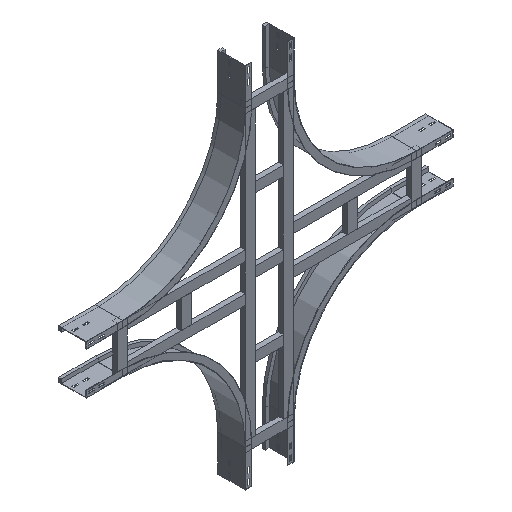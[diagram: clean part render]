
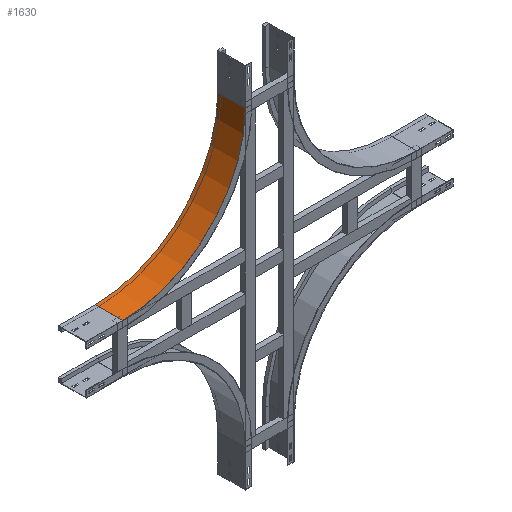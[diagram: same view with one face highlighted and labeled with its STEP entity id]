
A CAD part, isometric view. The second image highlights one B-rep face of the part: STEP entity #1630.
In plain terms, the highlighted cylindrical face has radius 500 mm (diameter 1000 mm), a partial arc.
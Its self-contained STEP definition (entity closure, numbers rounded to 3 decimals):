
#21 = FACE_OUTER_BOUND ( 'NONE', #2473, .T. ) ;
#47 = ORIENTED_EDGE ( 'NONE', *, *, #1497, .F. ) ;
#66 = CARTESIAN_POINT ( 'NONE',  ( 0., 0., -150. ) ) ;
#184 = VECTOR ( 'NONE', #2075, 1000. ) ;
#185 = ORIENTED_EDGE ( 'NONE', *, *, #946, .T. ) ;
#224 = CIRCLE ( 'NONE', #1600, 500. ) ;
#225 = CARTESIAN_POINT ( 'NONE',  ( 500., 0., -150. ) ) ;
#259 = LINE ( 'NONE', #66, #184 ) ;
#263 = VERTEX_POINT ( 'NONE', #516 ) ;
#269 = DIRECTION ( 'NONE',  ( 0., 0., -1. ) ) ;
#490 = DIRECTION ( 'NONE',  ( 0., -1., 0. ) ) ;
#497 = VECTOR ( 'NONE', #1885, 1000. ) ;
#514 = ORIENTED_EDGE ( 'NONE', *, *, #1176, .F. ) ;
#516 = CARTESIAN_POINT ( 'NONE',  ( 0., 0., -150. ) ) ;
#570 = AXIS2_PLACEMENT_3D ( 'NONE', #2021, #653, #1551 ) ;
#653 = DIRECTION ( 'NONE',  ( 0., -1., 0. ) ) ;
#665 = DIRECTION ( 'NONE',  ( 0., -1., 0. ) ) ;
#747 = LINE ( 'NONE', #1424, #497 ) ;
#946 = EDGE_CURVE ( 'NONE', #263, #2020, #1276, .T. ) ;
#1176 = EDGE_CURVE ( 'NONE', #263, #1767, #259, .T. ) ;
#1276 = CIRCLE ( 'NONE', #570, 500. ) ;
#1327 = ORIENTED_EDGE ( 'NONE', *, *, #1811, .T. ) ;
#1424 = CARTESIAN_POINT ( 'NONE',  ( 500., 0., -650. ) ) ;
#1497 = EDGE_CURVE ( 'NONE', #1767, #1840, #224, .T. ) ;
#1551 = DIRECTION ( 'NONE',  ( -1., 0., 0. ) ) ;
#1564 = DIRECTION ( 'NONE',  ( -1., 0., 0. ) ) ;
#1600 = AXIS2_PLACEMENT_3D ( 'NONE', #1974, #665, #1564 ) ;
#1612 = CARTESIAN_POINT ( 'NONE',  ( 500., 0., -650. ) ) ;
#1630 = ADVANCED_FACE ( 'NONE', ( #21 ), #2512, .F. ) ;
#1767 = VERTEX_POINT ( 'NONE', #2114 ) ;
#1811 = EDGE_CURVE ( 'NONE', #2020, #1840, #747, .T. ) ;
#1840 = VERTEX_POINT ( 'NONE', #2231 ) ;
#1885 = DIRECTION ( 'NONE',  ( 0., 1., 0. ) ) ;
#1913 = AXIS2_PLACEMENT_3D ( 'NONE', #225, #490, #269 ) ;
#1974 = CARTESIAN_POINT ( 'NONE',  ( 500., 112.5, -150. ) ) ;
#2020 = VERTEX_POINT ( 'NONE', #1612 ) ;
#2021 = CARTESIAN_POINT ( 'NONE',  ( 500., 0., -150. ) ) ;
#2075 = DIRECTION ( 'NONE',  ( 0., 1., 0. ) ) ;
#2114 = CARTESIAN_POINT ( 'NONE',  ( 0., 112.5, -150. ) ) ;
#2231 = CARTESIAN_POINT ( 'NONE',  ( 500., 112.5, -650. ) ) ;
#2473 = EDGE_LOOP ( 'NONE', ( #47, #514, #185, #1327 ) ) ;
#2512 = CYLINDRICAL_SURFACE ( 'NONE', #1913, 500. ) ;
